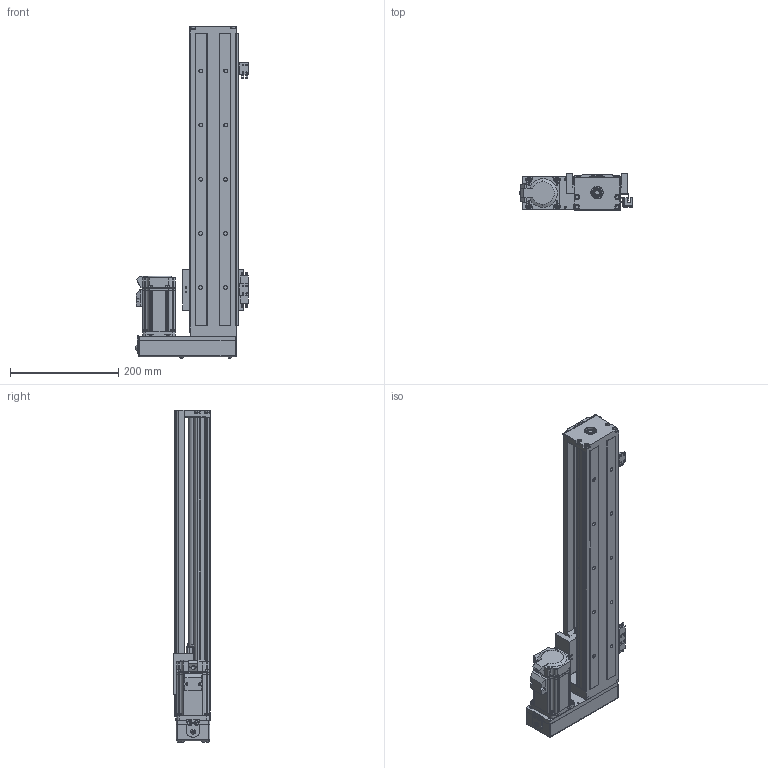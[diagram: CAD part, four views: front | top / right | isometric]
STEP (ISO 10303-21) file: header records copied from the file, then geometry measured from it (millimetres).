
FILE_DESCRIPTION (( 'STEP AP214' ), '1' );
FILE_NAME ('SFKK86-540A1-HL0C.STEP', '2023-02-17T08:51:24', ( '微软用户' ), ( '微软中国' ), 'SwSTEP 2.0', 'SolidWorks 2018', '' );
FILE_SCHEMA (( 'AUTOMOTIVE_DESIGN' ));
Length unit declared in the file: millimetre
Products named in the file (12): SX674嫖萇羲壽; SFKK86-LR 憤癹寢耋_540; SFKK86-540A1-HL0C; SFKK86-CU_540; 开关固定座：KK-674S2-F; 带盖挡光片：KK-86-S2-D1; 极限轨道与开关固定座组合_540; SFKK86-H0_KKR86-ZT-P-540; hexagon socket countersunk head screws gb_GB_FASTENER_SCREWS_HSCHS M4X10-N; SFKK86-H0-侂狟400W耜蚾; hexagon socket countersunk head screws gb_GB_FASTENER_SCREWS_HSCHS M3X8-N; SFKK86-A1-C
Assembly tree (18 placements, depth 3):
  SFKK86-540A1-HL0C
    SFKK86-H0_KKR86-ZT-P-540
    SFKK86-A1-C
    hexagon socket countersunk head screws gb_GB_FASTENER_SCREWS_HSCHS M3X8-N  x2
    SFKK86-CU_540
    hexagon socket countersunk head screws gb_GB_FASTENER_SCREWS_HSCHS M4X10-N  x4
    SFKK86-H0-侂狟400W耜蚾
    极限轨道与开关固定座组合_540
      SFKK86-LR 憤癹寢耋_540
      开关固定座：KK-674S2-F  x2
    SX674嫖萇羲壽  x3
    带盖挡光片：KK-86-S2-D1
Bounding box: 208.5 x 68 x 613.2 mm (x, y, z)
Volume: 1504504.3 mm3; surface area: 625527.1 mm2
Topology: 38 solids, 87 shells, 3655 faces, 9732 edges, 6231 vertices
Faces by surface type: plane 1627, cylinder 1467, cone 325, torus 105, bspline 98, sphere 33
Entity records: 136319 total; most frequent: CARTESIAN_POINT 28476, DIRECTION 18341, ORIENTED_EDGE 17556, EDGE_CURVE 9061, AXIS2_PLACEMENT_3D 6602, VERTEX_POINT 5905, VECTOR 5137, LINE 5137
